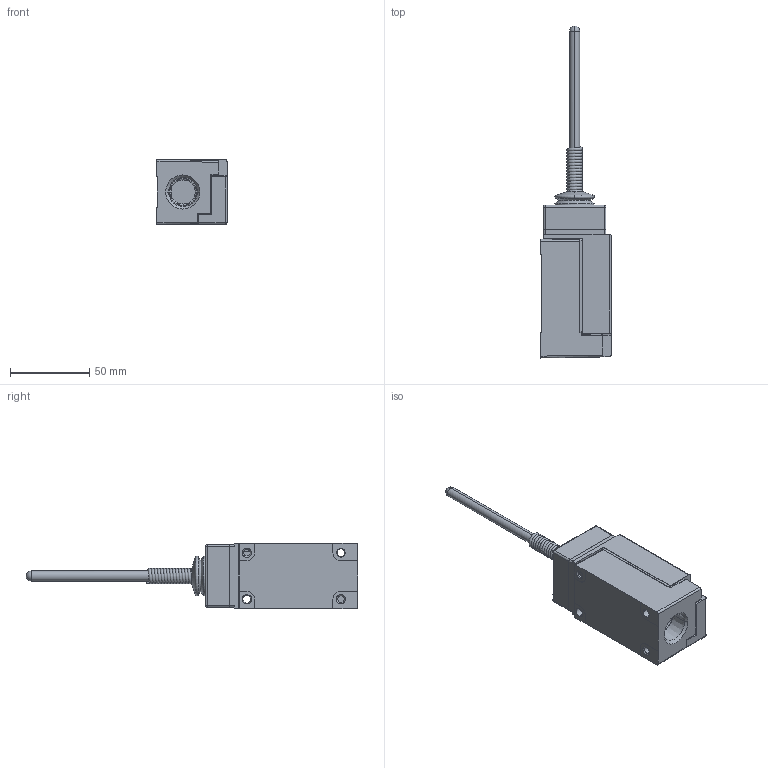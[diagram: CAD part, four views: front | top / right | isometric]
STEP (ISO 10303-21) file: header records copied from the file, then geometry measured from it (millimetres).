
FILE_DESCRIPTION((''),'2;1');
FILE_NAME('LSJ1A-7A','2012-12-06T',('E522935'),(''),'PRO/ENGINEER BY PARAMETRIC TECHNOLOGY CORPORATION, 2009460','PRO/ENGINEER BY PARAMETRIC TECHNOLOGY CORPORATION, 2009460','');
FILE_SCHEMA(('CONFIG_CONTROL_DESIGN'));
Length unit declared in the file: inch
Products named in the file (1): LSJ1A-7A
Bounding box: 44.32 x 210.05 x 41.15 mm (x, y, z)
Volume: 166687.5 mm3; surface area: 31023.9 mm2
Topology: 2 solids, 2 shells, 473 faces, 1164 edges, 708 vertices
Faces by surface type: plane 245, cylinder 139, cone 31, bspline 31, sphere 19, torus 8
Entity records: 21614 total; most frequent: CARTESIAN_POINT 10569, ORIENTED_EDGE 2324, DIRECTION 2256, EDGE_CURVE 1162, AXIS2_PLACEMENT_3D 803, VERTEX_POINT 708, VECTOR 650, LINE 650
